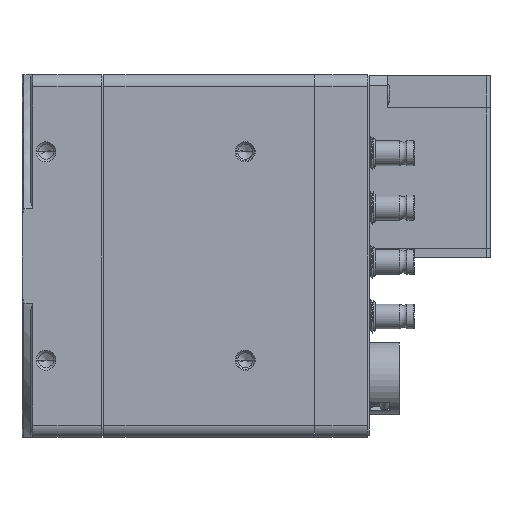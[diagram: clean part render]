
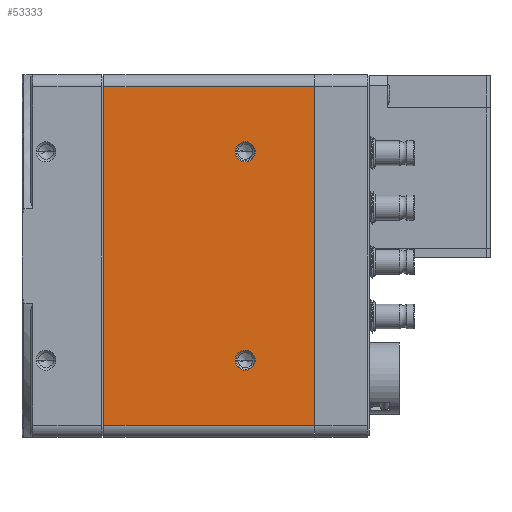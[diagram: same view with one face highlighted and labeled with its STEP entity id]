
A CAD part, front view. The second image highlights one B-rep face of the part: STEP entity #53333.
In plain terms, the highlighted planar face has unit normal (0, -1, 0).
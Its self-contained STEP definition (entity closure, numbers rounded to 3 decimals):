
#3571=DIRECTION('',(0.,0.,-1.));
#3572=VECTOR('',#3571,56.);
#3573=CARTESIAN_POINT('',(9.1,-30.,28.));
#3574=LINE('',#3573,#3572);
#3632=DIRECTION('',(1.,0.,0.));
#3633=VECTOR('',#3632,34.8);
#3634=CARTESIAN_POINT('',(9.1,-30.,-28.));
#3635=LINE('',#3634,#3633);
#3636=CARTESIAN_POINT('',(32.5,-30.,-17.25));
#3637=DIRECTION('',(0.,-1.,0.));
#3638=DIRECTION('',(1.,0.,0.));
#3639=AXIS2_PLACEMENT_3D('',#3636,#3637,#3638);
#3641=CARTESIAN_POINT('',(32.5,-30.,-17.25));
#3642=DIRECTION('',(0.,-1.,0.));
#3643=DIRECTION('',(-1.,0.,0.));
#3644=AXIS2_PLACEMENT_3D('',#3641,#3642,#3643);
#3646=CARTESIAN_POINT('',(32.5,-30.,17.25));
#3647=DIRECTION('',(0.,-1.,0.));
#3648=DIRECTION('',(-1.,0.,0.));
#3649=AXIS2_PLACEMENT_3D('',#3646,#3647,#3648);
#3651=CARTESIAN_POINT('',(32.5,-30.,17.25));
#3652=DIRECTION('',(0.,-1.,0.));
#3653=DIRECTION('',(1.,0.,0.));
#3654=AXIS2_PLACEMENT_3D('',#3651,#3652,#3653);
#3656=DIRECTION('',(-1.,0.,0.));
#3657=VECTOR('',#3656,34.8);
#3658=CARTESIAN_POINT('',(43.9,-30.,28.));
#3659=LINE('',#3658,#3657);
#3775=DIRECTION('',(0.,0.,1.));
#3776=VECTOR('',#3775,56.);
#3777=CARTESIAN_POINT('',(43.9,-30.,-28.));
#3778=LINE('',#3777,#3776);
#46807=CARTESIAN_POINT('',(9.1,-30.,28.));
#46808=CARTESIAN_POINT('',(9.1,-30.,-28.));
#46809=VERTEX_POINT('',#46807);
#46810=VERTEX_POINT('',#46808);
#46811=CARTESIAN_POINT('',(34.15,-30.,-17.25));
#46812=CARTESIAN_POINT('',(30.85,-30.,-17.25));
#46813=VERTEX_POINT('',#46811);
#46814=VERTEX_POINT('',#46812);
#46815=CARTESIAN_POINT('',(30.85,-30.,17.25));
#46816=CARTESIAN_POINT('',(34.15,-30.,17.25));
#46817=VERTEX_POINT('',#46815);
#46818=VERTEX_POINT('',#46816);
#46819=CARTESIAN_POINT('',(43.9,-30.,-28.));
#46820=VERTEX_POINT('',#46819);
#46863=CARTESIAN_POINT('',(43.9,-30.,28.));
#46864=VERTEX_POINT('',#46863);
#53308=CARTESIAN_POINT('',(26.5,-30.,0.));
#53309=DIRECTION('',(0.,1.,0.));
#53310=DIRECTION('',(0.,0.,-1.));
#53311=AXIS2_PLACEMENT_3D('',#53308,#53309,#53310);
#53312=PLANE('',#53311);
#53313=ORIENTED_EDGE('',*,*,#53300,.F.);
#53314=ORIENTED_EDGE('',*,*,#53234,.F.);
#53316=ORIENTED_EDGE('',*,*,#53315,.F.);
#53318=ORIENTED_EDGE('',*,*,#53317,.F.);
#53319=EDGE_LOOP('',(#53313,#53314,#53316,#53318));
#53320=FACE_OUTER_BOUND('',#53319,.F.);
#53322=ORIENTED_EDGE('',*,*,#53321,.T.);
#53324=ORIENTED_EDGE('',*,*,#53323,.T.);
#53325=EDGE_LOOP('',(#53322,#53324));
#53326=FACE_BOUND('',#53325,.F.);
#53328=ORIENTED_EDGE('',*,*,#53327,.T.);
#53330=ORIENTED_EDGE('',*,*,#53329,.T.);
#53331=EDGE_LOOP('',(#53328,#53330));
#53332=FACE_BOUND('',#53331,.F.);
#53333=ADVANCED_FACE('',(#53320,#53326,#53332),#53312,.F.);
#3640=CIRCLE('',#3639,1.65);
#3645=CIRCLE('',#3644,1.65);
#3650=CIRCLE('',#3649,1.65);
#3655=CIRCLE('',#3654,1.65);
#53234=EDGE_CURVE('',#46809,#46810,#3574,.T.);
#53300=EDGE_CURVE('',#46810,#46820,#3635,.T.);
#53315=EDGE_CURVE('',#46864,#46809,#3659,.T.);
#53317=EDGE_CURVE('',#46820,#46864,#3778,.T.);
#53321=EDGE_CURVE('',#46813,#46814,#3640,.T.);
#53323=EDGE_CURVE('',#46814,#46813,#3645,.T.);
#53327=EDGE_CURVE('',#46817,#46818,#3650,.T.);
#53329=EDGE_CURVE('',#46818,#46817,#3655,.T.);
